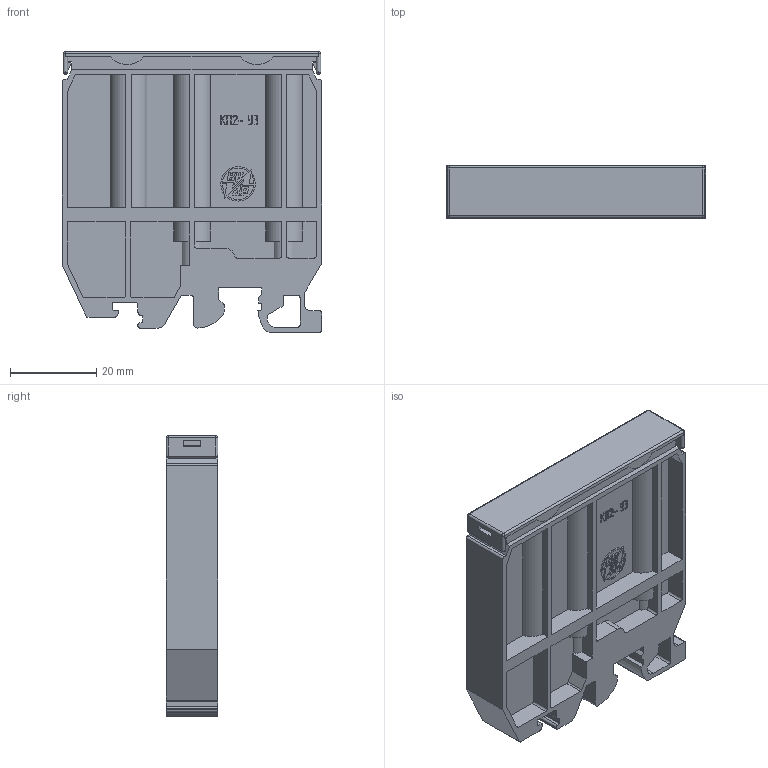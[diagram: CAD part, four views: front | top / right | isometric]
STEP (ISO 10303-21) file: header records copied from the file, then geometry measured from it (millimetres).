
FILE_DESCRIPTION(('STEP AP214'), '1');
FILE_NAME('Ïðèæèì ÊÏ2 ñ ìàðêèðîâî÷íîé êðûøêîé (çàêàç÷èêàì) èñõîäíèê', '', ('UNSPECIFIED'), ('UNSPECIFIED'), 'ASCON STEP Converter 1.6', 'ASCON Math Kernel', '');
FILE_SCHEMA(('AUTOMOTIVE_DESIGN { 1 0 10303 214 3 1 1}'));
Length unit declared in the file: millimetre
Bounding box: 60 x 12 x 65 mm (x, y, z)
Volume: 21137.3 mm3; surface area: 17857.3 mm2
Topology: 1 solids, 1 shells, 735 faces, 2083 edges, 1366 vertices
Faces by surface type: plane 475, cylinder 248, bspline 8, sphere 4
Entity records: 30914 total; most frequent: CARTESIAN_POINT 5578, ORIENTED_EDGE 4142, DIRECTION 3984, EDGE_CURVE 2071, LINE 1566, VECTOR 1566, VERTEX_POINT 1366, AXIS2_PLACEMENT_3D 1209
